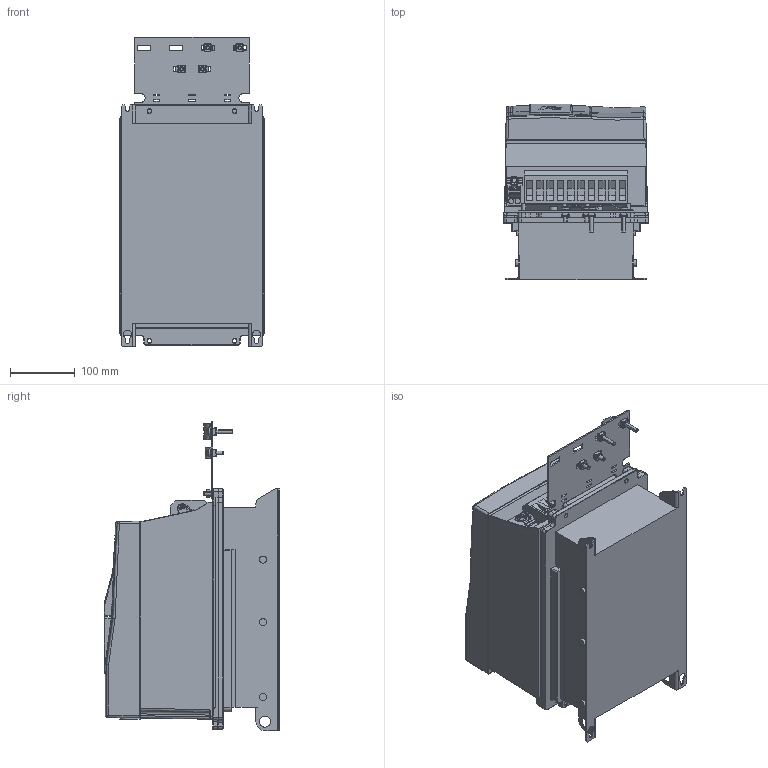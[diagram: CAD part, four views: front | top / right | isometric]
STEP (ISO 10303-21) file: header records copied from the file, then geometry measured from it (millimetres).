
FILE_DESCRIPTION (( 'STEP AP214' ), '1' );
FILE_NAME ('F6-4TR0-P051.STEP', '2020-12-08T11:24:11', ( '' ), ( '' ), 'SwSTEP 2.0', 'SolidWorks 2019', '' );
FILE_SCHEMA (( 'AUTOMOTIVE_DESIGN' ));
Length unit declared in the file: millimetre
Products named in the file (13): 10051076_000_Kundenmodell; 10061644_000_Deckel (Kundenmodell); 10058448_000; 10061645_000; 10059762_000_Kundenmodell mit Geberbuchsen; 10058468_000; F6-4TR0-P051; 10045808_000_Basis Leistungsteil TR0 (Kundenmodell); 10059764_000_Blindabdeckung (Kundenmodell); 10044453_000_Schirmung (Kundenmodell); 10059765_000; 10032600_000_Kundenmodell; 10063070_000
Assembly tree (12 placements, depth 4):
  F6-4TR0-P051
    10045808_000_Basis Leistungsteil TR0 (Kundenmodell)
      10058468_000
    10032600_000_Kundenmodell
      10061644_000_Deckel (Kundenmodell)
        10061645_000
      10058448_000
    10051076_000_Kundenmodell
      10059764_000_Blindabdeckung (Kundenmodell)
        10059765_000
      10059762_000_Kundenmodell mit Geberbuchsen
    10044453_000_Schirmung (Kundenmodell)
      10063070_000
Bounding box: 224 x 272.2 x 479.7 mm (x, y, z)
Volume: 17514575.9 mm3; surface area: 947117.5 mm2
Topology: 12 solids, 35 shells, 3307 faces, 8795 edges, 5572 vertices
Faces by surface type: plane 1502, cylinder 916, bspline 547, cone 148, torus 146, sphere 48
Entity records: 125313 total; most frequent: CARTESIAN_POINT 45962, ORIENTED_EDGE 17456, DIRECTION 15039, EDGE_CURVE 8728, VERTEX_POINT 5570, VECTOR 5023, LINE 5023, AXIS2_PLACEMENT_3D 5008
